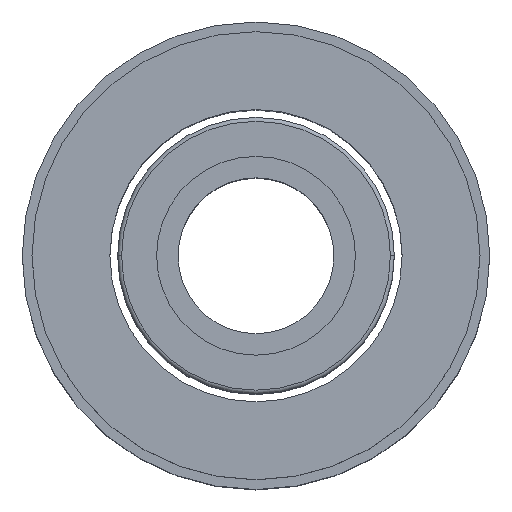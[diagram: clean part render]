
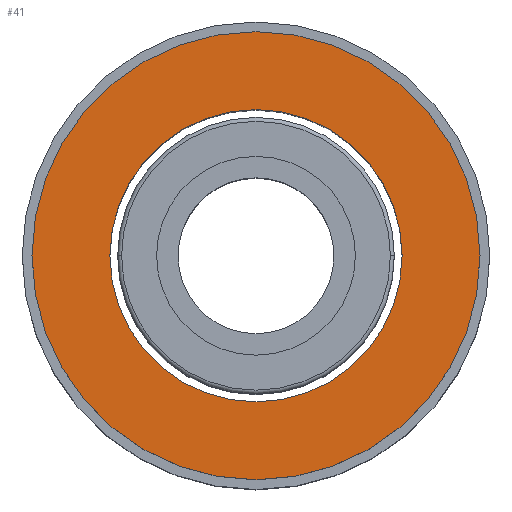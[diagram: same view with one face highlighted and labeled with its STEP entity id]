
A CAD part, top view. The second image highlights one B-rep face of the part: STEP entity #41.
In plain terms, the highlighted planar face has unit normal (0, 0, 1).
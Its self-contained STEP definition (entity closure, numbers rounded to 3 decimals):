
#29 = CIRCLE ( 'NONE', #879, 5.75 ) ;
#41 = ADVANCED_FACE ( 'NONE', ( #1100, #114 ), #700, .F. ) ;
#57 = AXIS2_PLACEMENT_3D ( 'NONE', #866, #282, #82 ) ;
#76 = CIRCLE ( 'NONE', #976, 3.75 ) ;
#79 = DIRECTION ( 'NONE',  ( 1., 0., 0. ) ) ;
#82 = DIRECTION ( 'NONE',  ( 1., 0., 0. ) ) ;
#114 = FACE_OUTER_BOUND ( 'NONE', #1112, .T. ) ;
#231 = VERTEX_POINT ( 'NONE', #417 ) ;
#270 = DIRECTION ( 'NONE',  ( 1., 0., 0. ) ) ;
#275 = VERTEX_POINT ( 'NONE', #932 ) ;
#282 = DIRECTION ( 'NONE',  ( 0., 0., 1. ) ) ;
#290 = DIRECTION ( 'NONE',  ( 1., 0., 0. ) ) ;
#324 = CARTESIAN_POINT ( 'NONE',  ( 3.75, 0., 0. ) ) ;
#417 = CARTESIAN_POINT ( 'NONE',  ( 5.75, 0., 0. ) ) ;
#492 = CARTESIAN_POINT ( 'NONE',  ( 0., 0., 0. ) ) ;
#497 = ORIENTED_EDGE ( 'NONE', *, *, #1052, .F. ) ;
#536 = CIRCLE ( 'NONE', #1164, 5.75 ) ;
#572 = DIRECTION ( 'NONE',  ( 0., 0., 1. ) ) ;
#650 = VERTEX_POINT ( 'NONE', #789 ) ;
#700 = PLANE ( 'NONE',  #1145 ) ;
#702 = CIRCLE ( 'NONE', #57, 3.75 ) ;
#748 = ORIENTED_EDGE ( 'NONE', *, *, #1204, .F. ) ;
#789 = CARTESIAN_POINT ( 'NONE',  ( -5.75, 0., 0. ) ) ;
#791 = EDGE_LOOP ( 'NONE', ( #497, #748 ) ) ;
#863 = VERTEX_POINT ( 'NONE', #324 ) ;
#866 = CARTESIAN_POINT ( 'NONE',  ( 0., 0., 0. ) ) ;
#879 = AXIS2_PLACEMENT_3D ( 'NONE', #1051, #1166, #79 ) ;
#891 = CARTESIAN_POINT ( 'NONE',  ( 0., 0., 0. ) ) ;
#919 = DIRECTION ( 'NONE',  ( 0., 0., -1. ) ) ;
#925 = CARTESIAN_POINT ( 'NONE',  ( 0., 5.75, 0. ) ) ;
#932 = CARTESIAN_POINT ( 'NONE',  ( -3.75, 0., 0. ) ) ;
#945 = EDGE_CURVE ( 'NONE', #231, #650, #29, .T. ) ;
#976 = AXIS2_PLACEMENT_3D ( 'NONE', #492, #572, #290 ) ;
#1005 = DIRECTION ( 'NONE',  ( -1., 0., 0. ) ) ;
#1051 = CARTESIAN_POINT ( 'NONE',  ( 0., 0., 0. ) ) ;
#1052 = EDGE_CURVE ( 'NONE', #863, #275, #702, .T. ) ;
#1064 = ORIENTED_EDGE ( 'NONE', *, *, #945, .T. ) ;
#1100 = FACE_BOUND ( 'NONE', #791, .T. ) ;
#1112 = EDGE_LOOP ( 'NONE', ( #1064, #1167 ) ) ;
#1138 = EDGE_CURVE ( 'NONE', #650, #231, #536, .T. ) ;
#1145 = AXIS2_PLACEMENT_3D ( 'NONE', #925, #919, #1005 ) ;
#1164 = AXIS2_PLACEMENT_3D ( 'NONE', #891, #1294, #270 ) ;
#1166 = DIRECTION ( 'NONE',  ( 0., 0., 1. ) ) ;
#1167 = ORIENTED_EDGE ( 'NONE', *, *, #1138, .T. ) ;
#1204 = EDGE_CURVE ( 'NONE', #275, #863, #76, .T. ) ;
#1294 = DIRECTION ( 'NONE',  ( 0., 0., 1. ) ) ;
